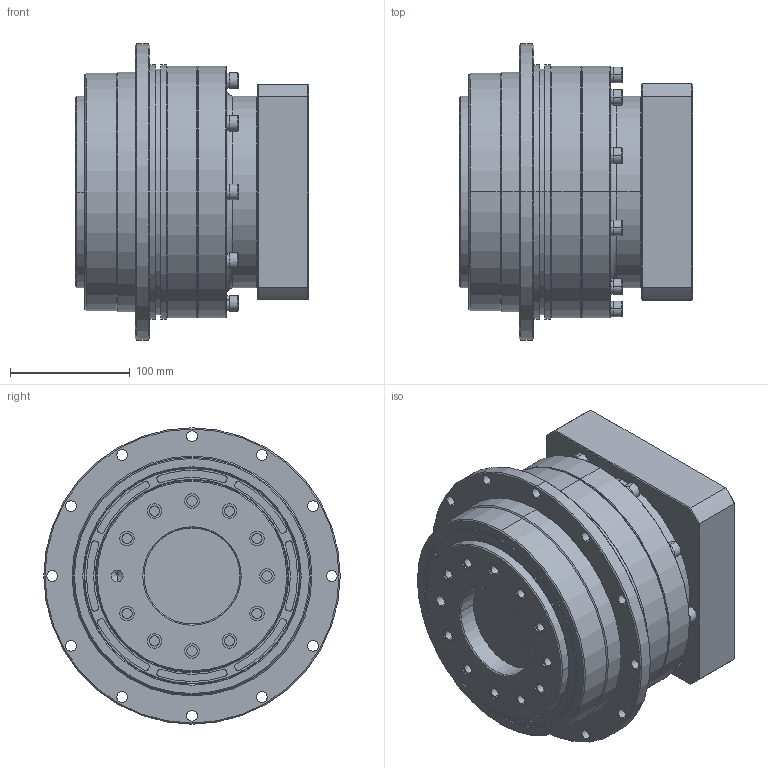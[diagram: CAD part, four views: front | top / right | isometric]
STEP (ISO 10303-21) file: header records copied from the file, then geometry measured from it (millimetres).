
FILE_DESCRIPTION (( 'STEP AP214' ), '1' );
FILE_NAME ('VRT-200-L1-P1 35-114.3-200-M12.STEP', '2023-09-25T05:57:12', ( '微软用户' ), ( '微软中国' ), 'SwSTEP 2.0', 'SolidWorks 2018', '' );
FILE_SCHEMA (( 'AUTOMOTIVE_DESIGN' ));
Length unit declared in the file: millimetre
Products named in the file (1): VRT-200-L1-P1 35-114.3-200-M12
Bounding box: 194.5 x 247 x 247 mm (x, y, z)
Volume: 5577042.4 mm3; surface area: 345640.3 mm2
Topology: 1 solids, 3 shells, 1093 faces, 2779 edges, 1755 vertices
Faces by surface type: cylinder 465, plane 454, cone 126, bspline 48
Entity records: 34519 total; most frequent: CARTESIAN_POINT 7669, DIRECTION 5937, ORIENTED_EDGE 5466, EDGE_CURVE 2733, AXIS2_PLACEMENT_3D 2339, VERTEX_POINT 1755, CIRCLE 1293, EDGE_LOOP 1280
